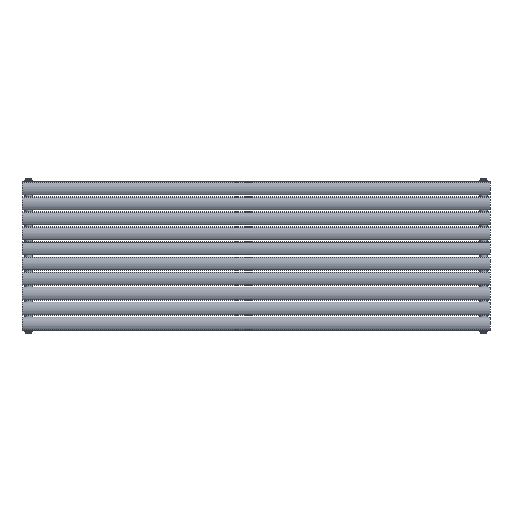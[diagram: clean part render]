
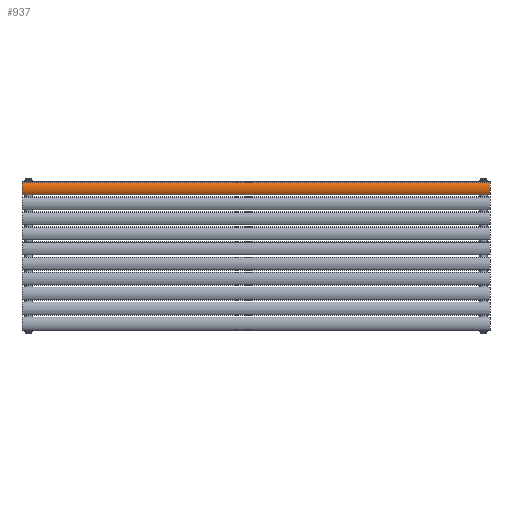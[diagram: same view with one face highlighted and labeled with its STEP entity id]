
A CAD part, top view. The second image highlights one B-rep face of the part: STEP entity #937.
In plain terms, the highlighted cylindrical face has radius 39.5 mm (diameter 79 mm), a partial arc.
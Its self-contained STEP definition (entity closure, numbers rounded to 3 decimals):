
#135=LINE('',#2336,#167);
#136=LINE('',#2340,#168);
#167=VECTOR('',#1202,10.);
#168=VECTOR('',#1205,10.);
#245=CIRCLE('',#1041,39.5);
#246=CIRCLE('',#1042,39.5);
#337=FACE_OUTER_BOUND('',#422,.T.);
#422=EDGE_LOOP('',(#780,#781,#782,#783));
#538=VERTEX_POINT('',#2334);
#539=VERTEX_POINT('',#2335);
#540=VERTEX_POINT('',#2337);
#541=VERTEX_POINT('',#2339);
#627=EDGE_CURVE('',#538,#539,#135,.T.);
#628=EDGE_CURVE('',#540,#538,#245,.T.);
#629=EDGE_CURVE('',#541,#540,#136,.T.);
#630=EDGE_CURVE('',#539,#541,#246,.T.);
#780=ORIENTED_EDGE('',*,*,#627,.F.);
#781=ORIENTED_EDGE('',*,*,#628,.F.);
#782=ORIENTED_EDGE('',*,*,#629,.F.);
#783=ORIENTED_EDGE('',*,*,#630,.F.);
#908=CYLINDRICAL_SURFACE('',#1040,39.5);
#937=ADVANCED_FACE('',(#337),#908,.T.);
#1040=AXIS2_PLACEMENT_3D('',#2333,#1200,#1201);
#1041=AXIS2_PLACEMENT_3D('',#2338,#1203,#1204);
#1042=AXIS2_PLACEMENT_3D('',#2341,#1206,#1207);
#1200=DIRECTION('center_axis',(0.,0.,1.));
#1201=DIRECTION('ref_axis',(-0.552,-0.834,0.));
#1202=DIRECTION('',(0.,0.,-1.));
#1203=DIRECTION('center_axis',(0.,0.,1.));
#1204=DIRECTION('ref_axis',(-0.552,-0.834,0.));
#1205=DIRECTION('',(0.,0.,1.));
#1206=DIRECTION('center_axis',(0.,0.,-1.));
#1207=DIRECTION('ref_axis',(-0.552,-0.834,0.));
#2333=CARTESIAN_POINT('Origin',(0.,14.5,0.));
#2334=CARTESIAN_POINT('',(21.816,-18.429,900.));
#2335=CARTESIAN_POINT('',(21.816,-18.429,-900.));
#2336=CARTESIAN_POINT('',(21.816,-18.429,0.));
#2337=CARTESIAN_POINT('',(-21.816,-18.429,900.));
#2338=CARTESIAN_POINT('Origin',(0.,14.5,900.));
#2339=CARTESIAN_POINT('',(-21.816,-18.429,-900.));
#2340=CARTESIAN_POINT('',(-21.816,-18.429,0.));
#2341=CARTESIAN_POINT('Origin',(0.,14.5,-900.));
